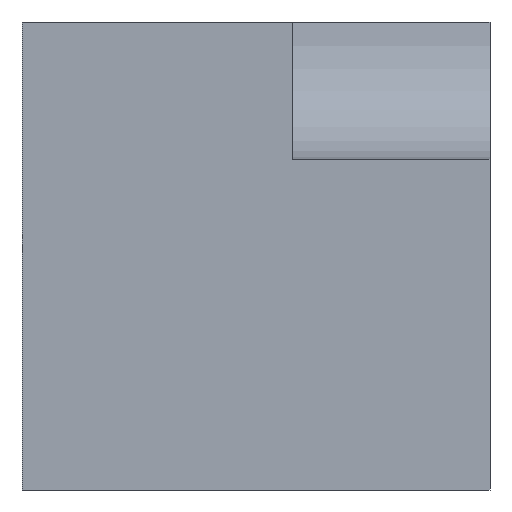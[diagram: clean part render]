
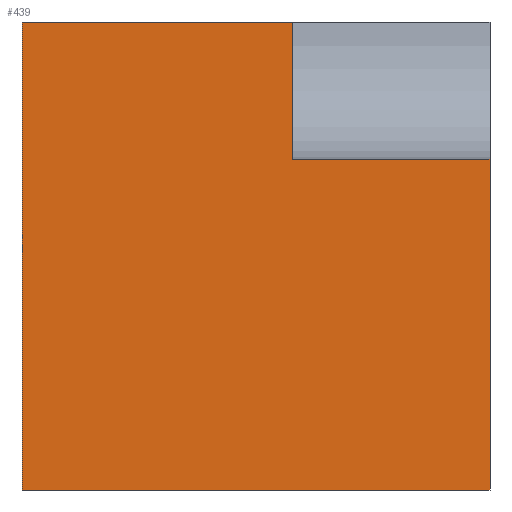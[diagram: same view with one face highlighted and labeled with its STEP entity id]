
A CAD part, left-side view. The second image highlights one B-rep face of the part: STEP entity #439.
In plain terms, the highlighted planar face has unit normal (-1, 0, 0).
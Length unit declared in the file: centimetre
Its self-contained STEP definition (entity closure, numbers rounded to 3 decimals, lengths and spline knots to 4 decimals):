
#7 = DIRECTION ( 'NONE',  ( 0., 0., -1. ) ) ;
#23 = CARTESIAN_POINT ( 'NONE',  ( 0., 0., 0. ) ) ;
#36 = ORIENTED_EDGE ( 'NONE', *, *, #412, .T. ) ;
#43 = ORIENTED_EDGE ( 'NONE', *, *, #216, .T. ) ;
#45 = CARTESIAN_POINT ( 'NONE',  ( 0., 1000., 1000. ) ) ;
#53 = DIRECTION ( 'NONE',  ( 1., 0., 0. ) ) ;
#66 = VERTEX_POINT ( 'NONE', #181 ) ;
#72 = DIRECTION ( 'NONE',  ( 0., 0., -1. ) ) ;
#137 = AXIS2_PLACEMENT_3D ( 'NONE', #185, #53, #7 ) ;
#138 = EDGE_CURVE ( 'NONE', #395, #363, #528, .T. ) ;
#151 = VERTEX_POINT ( 'NONE', #564 ) ;
#157 = VECTOR ( 'NONE', #440, 100. ) ;
#159 = EDGE_CURVE ( 'NONE', #395, #66, #522, .T. ) ;
#175 = LINE ( 'NONE', #176, #482 ) ;
#176 = CARTESIAN_POINT ( 'NONE',  ( 0., 421.1411, 1000. ) ) ;
#181 = CARTESIAN_POINT ( 'NONE',  ( 0., 1000., 0. ) ) ;
#185 = CARTESIAN_POINT ( 'NONE',  ( 0., 1000., 1000. ) ) ;
#210 = VECTOR ( 'NONE', #349, 100. ) ;
#216 = EDGE_CURVE ( 'NONE', #151, #242, #400, .T. ) ;
#242 = VERTEX_POINT ( 'NONE', #487 ) ;
#247 = EDGE_CURVE ( 'NONE', #363, #242, #175, .T. ) ;
#263 = CARTESIAN_POINT ( 'NONE',  ( 0., 421.1411, 707.1682 ) ) ;
#268 = DIRECTION ( 'NONE',  ( 0., -1., 0. ) ) ;
#273 = PLANE ( 'NONE',  #137 ) ;
#278 = FACE_OUTER_BOUND ( 'NONE', #374, .T. ) ;
#295 = ORIENTED_EDGE ( 'NONE', *, *, #247, .F. ) ;
#298 = LINE ( 'NONE', #342, #463 ) ;
#309 = DIRECTION ( 'NONE',  ( 0., 0., -1. ) ) ;
#316 = CARTESIAN_POINT ( 'NONE',  ( 0., 1000., 0. ) ) ;
#320 = LINE ( 'NONE', #316, #489 ) ;
#342 = CARTESIAN_POINT ( 'NONE',  ( 0., 0., 1000. ) ) ;
#349 = DIRECTION ( 'NONE',  ( 0., 0., -1. ) ) ;
#358 = VECTOR ( 'NONE', #268, 100. ) ;
#363 = VERTEX_POINT ( 'NONE', #455 ) ;
#374 = EDGE_LOOP ( 'NONE', ( #520, #43, #295, #456, #389, #36 ) ) ;
#389 = ORIENTED_EDGE ( 'NONE', *, *, #159, .T. ) ;
#394 = CARTESIAN_POINT ( 'NONE',  ( 0., 1000., 1000. ) ) ;
#395 = VERTEX_POINT ( 'NONE', #535 ) ;
#400 = LINE ( 'NONE', #263, #157 ) ;
#412 = EDGE_CURVE ( 'NONE', #66, #540, #320, .T. ) ;
#439 = ADVANCED_FACE ( 'NONE', ( #278 ), #273, .F. ) ;
#440 = DIRECTION ( 'NONE',  ( 0., 1., 0. ) ) ;
#455 = CARTESIAN_POINT ( 'NONE',  ( 0., 421.1411, 1000. ) ) ;
#456 = ORIENTED_EDGE ( 'NONE', *, *, #138, .F. ) ;
#463 = VECTOR ( 'NONE', #72, 100. ) ;
#482 = VECTOR ( 'NONE', #309, 100. ) ;
#487 = CARTESIAN_POINT ( 'NONE',  ( 0., 421.1411, 707.1682 ) ) ;
#489 = VECTOR ( 'NONE', #549, 100. ) ;
#520 = ORIENTED_EDGE ( 'NONE', *, *, #557, .F. ) ;
#522 = LINE ( 'NONE', #45, #210 ) ;
#528 = LINE ( 'NONE', #394, #358 ) ;
#535 = CARTESIAN_POINT ( 'NONE',  ( 0., 1000., 1000. ) ) ;
#540 = VERTEX_POINT ( 'NONE', #23 ) ;
#549 = DIRECTION ( 'NONE',  ( 0., -1., 0. ) ) ;
#557 = EDGE_CURVE ( 'NONE', #151, #540, #298, .T. ) ;
#564 = CARTESIAN_POINT ( 'NONE',  ( 0., 0., 707.1682 ) ) ;
